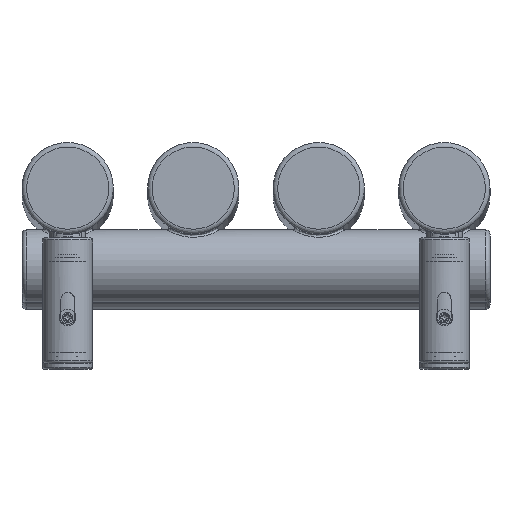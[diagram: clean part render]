
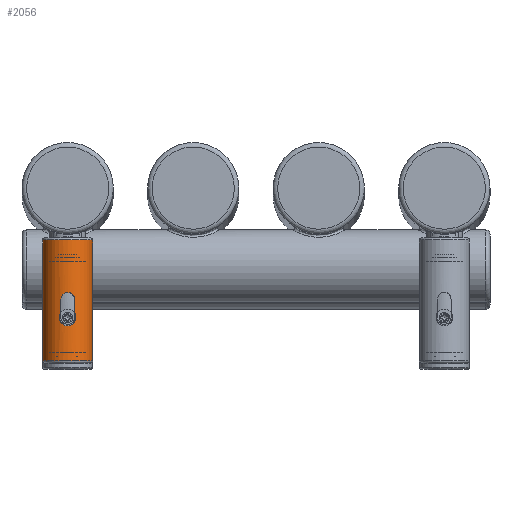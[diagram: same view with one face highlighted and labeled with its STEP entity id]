
A CAD part, top view. The second image highlights one B-rep face of the part: STEP entity #2056.
In plain terms, the highlighted cylindrical face has radius 11 mm (diameter 22 mm), a full revolution.
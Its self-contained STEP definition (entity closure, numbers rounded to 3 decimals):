
#182=FACE_BOUND('',#597,.T.);
#219=LINE('',#5250,#292);
#220=LINE('',#5287,#293);
#221=LINE('',#5310,#294);
#292=VECTOR('',#2851,11.);
#293=VECTOR('',#2854,10.);
#294=VECTOR('',#2855,10.);
#355=CYLINDRICAL_SURFACE('',#2341,11.);
#441=FACE_OUTER_BOUND('',#596,.T.);
#596=EDGE_LOOP('',(#1693,#1694,#1695,#1696,#1697));
#597=EDGE_LOOP('',(#1698,#1699,#1700,#1701,#1702,#1703,#1704,#1705));
#672=B_SPLINE_CURVE_WITH_KNOTS('',3,(#5194,#5195,#5196,#5197,#5198,#5199),
 .UNSPECIFIED.,.F.,.F.,(4,2,4),(1.664,1.802,1.91),
 .UNSPECIFIED.);
#673=B_SPLINE_CURVE_WITH_KNOTS('',3,(#5254,#5255,#5256,#5257,#5258,#5259,
#5260,#5261,#5262,#5263,#5264,#5265,#5266),.UNSPECIFIED.,.F.,.F.,(4,2,3,
2,2,4),(-0.174,-0.13,0.,0.136,0.271,
0.292),.UNSPECIFIED.);
#674=B_SPLINE_CURVE_WITH_KNOTS('',3,(#5267,#5268,#5269,#5270,#5271,#5272),
 .UNSPECIFIED.,.F.,.F.,(4,2,4),(1.417,1.525,1.664),
 .UNSPECIFIED.);
#675=B_SPLINE_CURVE_WITH_KNOTS('',3,(#5274,#5275,#5276,#5277,#5278,#5279,
#5280,#5281,#5282,#5283,#5284,#5285),.UNSPECIFIED.,.F.,.F.,(4,2,2,2,2,4),
(0.813,0.834,0.969,1.105,
1.236,1.279),.UNSPECIFIED.);
#676=B_SPLINE_CURVE_WITH_KNOTS('',3,(#5289,#5290,#5291,#5292,#5293,#5294,
#5295,#5296,#5297,#5298),.UNSPECIFIED.,.F.,.F.,(4,2,2,2,4),(0.,0.114,
0.227,0.341,0.455),.UNSPECIFIED.);
#677=B_SPLINE_CURVE_WITH_KNOTS('',3,(#5300,#5301,#5302,#5303,#5304,#5305,
#5306,#5307,#5308,#5309),.UNSPECIFIED.,.F.,.F.,(4,2,2,2,4),(0.455,
0.568,0.682,0.795,0.909),
 .UNSPECIFIED.);
#821=CIRCLE('',#2340,11.);
#822=CIRCLE('',#2342,11.);
#823=CIRCLE('',#2343,11.);
#958=VERTEX_POINT('',#5191);
#959=VERTEX_POINT('',#5193);
#973=VERTEX_POINT('',#5243);
#974=VERTEX_POINT('',#5247);
#975=VERTEX_POINT('',#5248);
#976=VERTEX_POINT('',#5252);
#977=VERTEX_POINT('',#5253);
#978=VERTEX_POINT('',#5273);
#979=VERTEX_POINT('',#5286);
#980=VERTEX_POINT('',#5288);
#981=VERTEX_POINT('',#5299);
#1208=EDGE_CURVE('',#959,#958,#672,.T.);
#1230=EDGE_CURVE('',#973,#973,#821,.T.);
#1231=EDGE_CURVE('',#974,#975,#822,.T.);
#1232=EDGE_CURVE('',#974,#973,#219,.T.);
#1233=EDGE_CURVE('',#975,#974,#823,.T.);
#1234=EDGE_CURVE('',#976,#977,#673,.T.);
#1235=EDGE_CURVE('',#977,#959,#674,.T.);
#1236=EDGE_CURVE('',#958,#978,#675,.T.);
#1237=EDGE_CURVE('',#978,#979,#220,.T.);
#1238=EDGE_CURVE('',#979,#980,#676,.T.);
#1239=EDGE_CURVE('',#980,#981,#677,.T.);
#1240=EDGE_CURVE('',#981,#976,#221,.T.);
#1693=ORIENTED_EDGE('',*,*,#1231,.F.);
#1694=ORIENTED_EDGE('',*,*,#1232,.T.);
#1695=ORIENTED_EDGE('',*,*,#1230,.F.);
#1696=ORIENTED_EDGE('',*,*,#1232,.F.);
#1697=ORIENTED_EDGE('',*,*,#1233,.F.);
#1698=ORIENTED_EDGE('',*,*,#1234,.T.);
#1699=ORIENTED_EDGE('',*,*,#1235,.T.);
#1700=ORIENTED_EDGE('',*,*,#1208,.T.);
#1701=ORIENTED_EDGE('',*,*,#1236,.T.);
#1702=ORIENTED_EDGE('',*,*,#1237,.T.);
#1703=ORIENTED_EDGE('',*,*,#1238,.T.);
#1704=ORIENTED_EDGE('',*,*,#1239,.T.);
#1705=ORIENTED_EDGE('',*,*,#1240,.T.);
#2056=ADVANCED_FACE('',(#441,#182),#355,.T.);
#2340=AXIS2_PLACEMENT_3D('',#5245,#2845,#2846);
#2341=AXIS2_PLACEMENT_3D('',#5246,#2847,#2848);
#2342=AXIS2_PLACEMENT_3D('',#5249,#2849,#2850);
#2343=AXIS2_PLACEMENT_3D('',#5251,#2852,#2853);
#2845=DIRECTION('center_axis',(0.,0.,-1.));
#2846=DIRECTION('ref_axis',(-1.,0.,0.));
#2847=DIRECTION('center_axis',(0.,0.,1.));
#2848=DIRECTION('ref_axis',(-1.,0.,0.));
#2849=DIRECTION('center_axis',(0.,0.,1.));
#2850=DIRECTION('ref_axis',(-1.,0.,0.));
#2851=DIRECTION('',(0.,0.,-1.));
#2852=DIRECTION('center_axis',(0.,0.,1.));
#2853=DIRECTION('ref_axis',(-1.,0.,0.));
#2854=DIRECTION('',(0.,0.,1.));
#2855=DIRECTION('',(0.,0.,-1.));
#5191=CARTESIAN_POINT('',(2.355,10.745,17.211));
#5193=CARTESIAN_POINT('',(0.,11.,16.35));
#5194=CARTESIAN_POINT('Ctrl Pts',(0.,11.,16.35));
#5195=CARTESIAN_POINT('Ctrl Pts',(0.462,11.,16.35));
#5196=CARTESIAN_POINT('Ctrl Pts',(0.952,10.968,16.443));
#5197=CARTESIAN_POINT('Ctrl Pts',(1.751,10.865,16.775));
#5198=CARTESIAN_POINT('Ctrl Pts',(2.077,10.806,16.976));
#5199=CARTESIAN_POINT('Ctrl Pts',(2.355,10.745,17.211));
#5243=CARTESIAN_POINT('',(11.,0.,1.));
#5245=CARTESIAN_POINT('Origin',(0.,0.,1.));
#5246=CARTESIAN_POINT('Origin',(0.,0.,0.));
#5247=CARTESIAN_POINT('',(11.,0.,54.));
#5248=CARTESIAN_POINT('',(-11.,0.,54.));
#5249=CARTESIAN_POINT('Origin',(0.,0.,54.));
#5250=CARTESIAN_POINT('',(11.,0.,0.));
#5251=CARTESIAN_POINT('Origin',(0.,0.,54.));
#5252=CARTESIAN_POINT('',(-3.,10.583,21.779));
#5253=CARTESIAN_POINT('',(-2.355,10.745,17.211));
#5254=CARTESIAN_POINT('Ctrl Pts',(-3.,10.583,21.779));
#5255=CARTESIAN_POINT('Ctrl Pts',(-3.063,10.565,21.639));
#5256=CARTESIAN_POINT('Ctrl Pts',(-3.118,10.549,21.494));
#5257=CARTESIAN_POINT('Ctrl Pts',(-3.307,10.492,20.903));
#5258=CARTESIAN_POINT('Ctrl Pts',(-3.375,10.47,20.435));
#5259=CARTESIAN_POINT('Ctrl Pts',(-3.375,10.47,20.));
#5260=CARTESIAN_POINT('Ctrl Pts',(-3.375,10.47,19.548));
#5261=CARTESIAN_POINT('Ctrl Pts',(-3.302,10.494,19.061));
#5262=CARTESIAN_POINT('Ctrl Pts',(-2.996,10.585,18.147));
#5263=CARTESIAN_POINT('Ctrl Pts',(-2.764,10.651,17.719));
#5264=CARTESIAN_POINT('Ctrl Pts',(-2.444,10.725,17.315));
#5265=CARTESIAN_POINT('Ctrl Pts',(-2.4,10.735,17.263));
#5266=CARTESIAN_POINT('Ctrl Pts',(-2.355,10.745,17.211));
#5267=CARTESIAN_POINT('Ctrl Pts',(-2.355,10.745,17.211));
#5268=CARTESIAN_POINT('Ctrl Pts',(-2.077,10.806,16.976));
#5269=CARTESIAN_POINT('Ctrl Pts',(-1.751,10.865,16.775));
#5270=CARTESIAN_POINT('Ctrl Pts',(-0.952,10.968,16.443));
#5271=CARTESIAN_POINT('Ctrl Pts',(-0.462,11.,16.35));
#5272=CARTESIAN_POINT('Ctrl Pts',(0.,11.,16.35));
#5273=CARTESIAN_POINT('',(3.,10.583,21.779));
#5274=CARTESIAN_POINT('Ctrl Pts',(2.355,10.745,17.211));
#5275=CARTESIAN_POINT('Ctrl Pts',(2.4,10.735,17.263));
#5276=CARTESIAN_POINT('Ctrl Pts',(2.444,10.725,17.315));
#5277=CARTESIAN_POINT('Ctrl Pts',(2.764,10.651,17.719));
#5278=CARTESIAN_POINT('Ctrl Pts',(2.996,10.585,18.147));
#5279=CARTESIAN_POINT('Ctrl Pts',(3.302,10.494,19.061));
#5280=CARTESIAN_POINT('Ctrl Pts',(3.375,10.47,19.548));
#5281=CARTESIAN_POINT('Ctrl Pts',(3.375,10.47,20.435));
#5282=CARTESIAN_POINT('Ctrl Pts',(3.307,10.492,20.903));
#5283=CARTESIAN_POINT('Ctrl Pts',(3.118,10.549,21.494));
#5284=CARTESIAN_POINT('Ctrl Pts',(3.063,10.565,21.639));
#5285=CARTESIAN_POINT('Ctrl Pts',(3.,10.583,21.779));
#5286=CARTESIAN_POINT('',(3.,10.583,28.));
#5287=CARTESIAN_POINT('',(3.,10.583,0.));
#5288=CARTESIAN_POINT('',(0.,11.,31.));
#5289=CARTESIAN_POINT('Ctrl Pts',(3.,10.583,28.));
#5290=CARTESIAN_POINT('Ctrl Pts',(3.,10.583,28.379));
#5291=CARTESIAN_POINT('Ctrl Pts',(2.924,10.605,28.781));
#5292=CARTESIAN_POINT('Ctrl Pts',(2.617,10.685,29.52));
#5293=CARTESIAN_POINT('Ctrl Pts',(2.387,10.741,29.856));
#5294=CARTESIAN_POINT('Ctrl Pts',(1.856,10.846,30.387));
#5295=CARTESIAN_POINT('Ctrl Pts',(1.52,10.901,30.617));
#5296=CARTESIAN_POINT('Ctrl Pts',(0.781,10.978,30.924));
#5297=CARTESIAN_POINT('Ctrl Pts',(0.379,11.,31.));
#5298=CARTESIAN_POINT('Ctrl Pts',(0.,11.,31.));
#5299=CARTESIAN_POINT('',(-3.,10.583,28.));
#5300=CARTESIAN_POINT('Ctrl Pts',(0.,11.,31.));
#5301=CARTESIAN_POINT('Ctrl Pts',(-0.379,11.,31.));
#5302=CARTESIAN_POINT('Ctrl Pts',(-0.781,10.978,30.924));
#5303=CARTESIAN_POINT('Ctrl Pts',(-1.52,10.901,30.617));
#5304=CARTESIAN_POINT('Ctrl Pts',(-1.856,10.846,30.387));
#5305=CARTESIAN_POINT('Ctrl Pts',(-2.387,10.741,29.856));
#5306=CARTESIAN_POINT('Ctrl Pts',(-2.617,10.685,29.52));
#5307=CARTESIAN_POINT('Ctrl Pts',(-2.924,10.605,28.781));
#5308=CARTESIAN_POINT('Ctrl Pts',(-3.,10.583,28.379));
#5309=CARTESIAN_POINT('Ctrl Pts',(-3.,10.583,28.));
#5310=CARTESIAN_POINT('',(-3.,10.583,0.));
